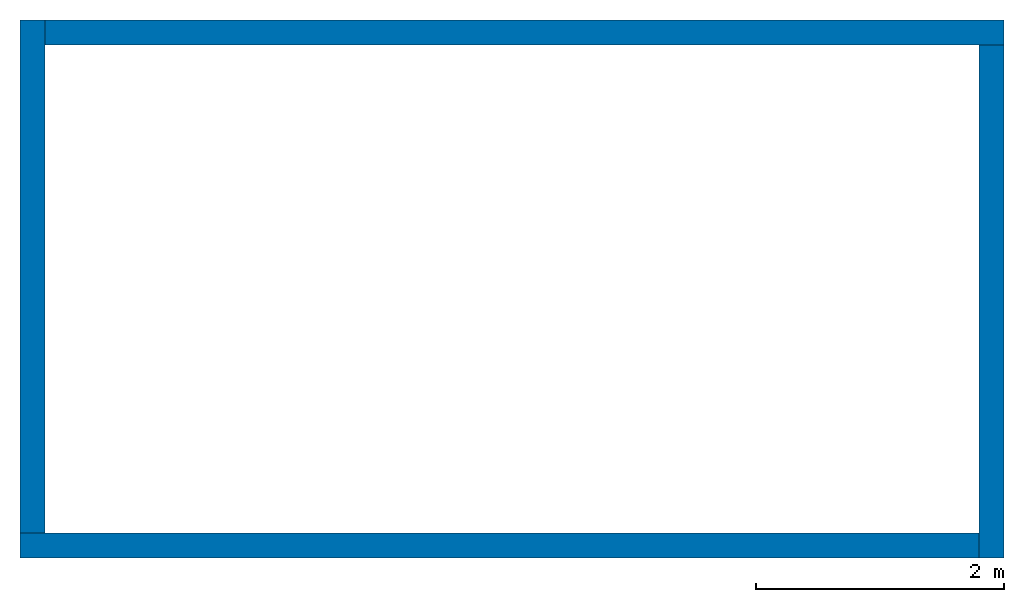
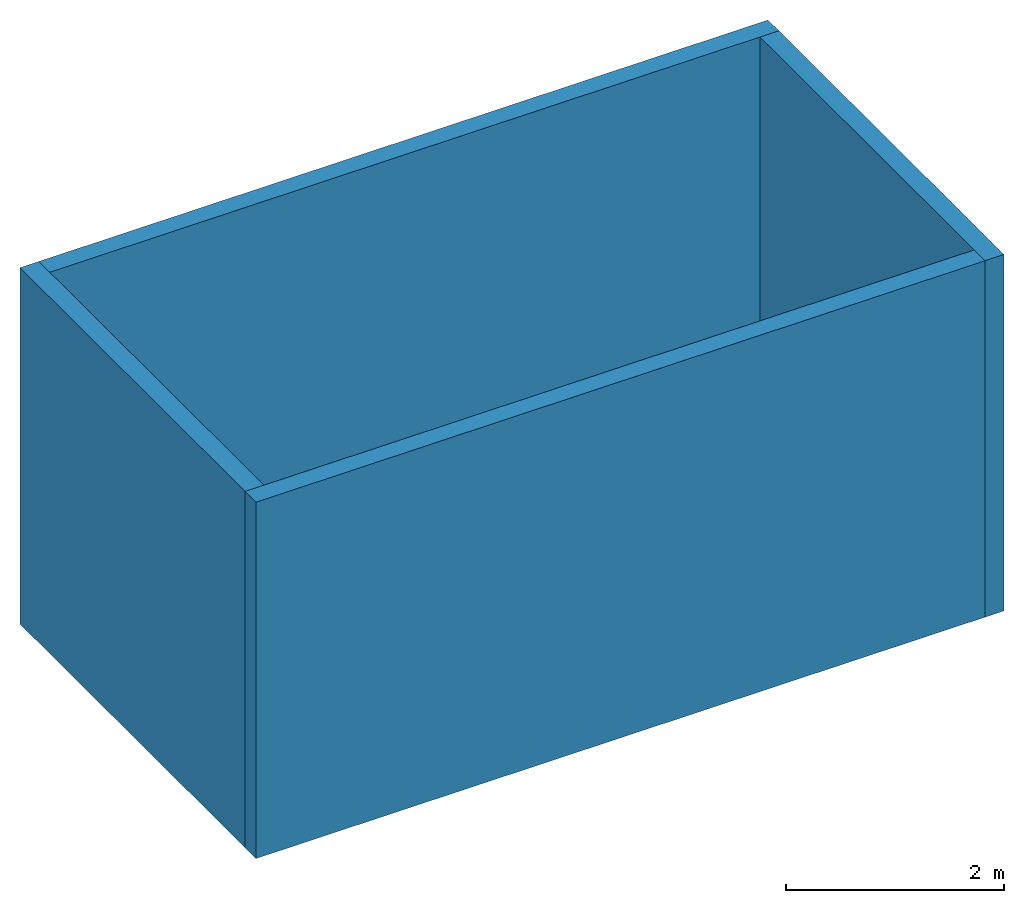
# One storey: 4 walls.
"""IFC2X3 building model written with IfcOpenShell, lengths in millimetres."""

import ifcopenshell
import ifcopenshell.guid

model = None  # the IFC model being written
_history = None  # IfcOwnerHistory: only IFC2X3 demands one
_inside = {}  # id of a spatial element -> (the spatial element, [elements in it])
_under = {}  # id of a project, library or spatial element -> (it, [spatial elements below it])
_declared = {}  # id of a project -> (the project, [libraries it declares])
_typed = {}  # id of a type object -> (the type object, [elements of that type])
_made_of = {}  # id of a material, layer set ... -> (it, [elements and type objects made of it])


def new_model(schema):
    """Start an empty IFC model of exactly this schema.

    Asked for "IFC4X3", IfcOpenShell would pick the latest addendum, in which some entities
    have other attributes; the version numbers below select the first issue.
    IFC2X3 requires an IfcOwnerHistory on every rooted entity: one is made here for all.
    """
    global model, _history
    if schema == "IFC4X3":
        model = ifcopenshell.file(schema_version=(4, 3, 0, 0))
    else:
        model = ifcopenshell.file(schema=schema)
    _inside.clear()
    _under.clear()
    _declared.clear()
    _typed.clear()
    _made_of.clear()
    _history = None
    if model.schema == "IFC2X3":
        org = make("IfcOrganization", Name="unknown")
        user = make(
            "IfcPersonAndOrganization",
            ThePerson=make("IfcPerson", FamilyName="unknown"),
            TheOrganization=org,
        )
        app = make(
            "IfcApplication",
            ApplicationDeveloper=org,
            Version="unknown",
            ApplicationFullName="unknown",
            ApplicationIdentifier="unknown",
        )
        _history = make(
            "IfcOwnerHistory",
            OwningUser=user,
            OwningApplication=app,
            ChangeAction="ADDED",
            CreationDate=0,
        )
    return model


def make(cls, **values):
    """One entity of the class cls with the attributes given. An attribute that is None is left unset."""
    return model.create_entity(
        cls, **{name: value for name, value in values.items() if value is not None}
    )


def entity(cls, *values):
    """Any entity or typed value of the class cls, its attributes in the order of the schema. None: left unset."""
    e = model.create_entity(cls)
    for i, value in enumerate(values):
        if value is not None:
            e[i] = value
    return e


def rooted(cls, **values):
    """An entity with a GlobalId (a new one), such as an element, a storey or a relation."""
    return make(cls, GlobalId=ifcopenshell.guid.new(), OwnerHistory=_history, **values)


def si_unit(unit_type, name, prefix=None):
    """IfcSIUnit, for example si_unit("LENGTHUNIT", "METRE", prefix="MILLI")."""
    return make("IfcSIUnit", UnitType=unit_type, Prefix=prefix, Name=name)


def converted_unit(unit_type, name, factor, base, dimensions=None, offset=None):
    """IfcConversionBasedUnit, such as the inch: factor (a typed value) times the base unit."""
    return make(
        "IfcConversionBasedUnit"
        if offset is None
        else "IfcConversionBasedUnitWithOffset",
        ConversionOffset=offset,
        Dimensions=None
        if dimensions is None
        else entity("IfcDimensionalExponents", *dimensions),
        UnitType=unit_type,
        Name=name,
        ConversionFactor=make(
            "IfcMeasureWithUnit", ValueComponent=factor, UnitComponent=base
        ),
    )


def derived_unit(unit_type, elements):
    """IfcDerivedUnit: a product of units, each with its exponent."""
    return make(
        "IfcDerivedUnit",
        Elements=[
            make("IfcDerivedUnitElement", Unit=unit, Exponent=power)
            for unit, power in elements
        ],
        UnitType=unit_type,
    )


def assignment(units):
    """IfcUnitAssignment: the units of a project."""
    return None if units is None else make("IfcUnitAssignment", Units=units)


def point(xyz):
    """IfcCartesianPoint."""
    return None if xyz is None else make("IfcCartesianPoint", Coordinates=xyz)


def direction(xyz):
    """IfcDirection."""
    return None if xyz is None else make("IfcDirection", DirectionRatios=xyz)


def frame(location, z_axis=None, x_axis=None):
    """IfcAxis2Placement3D, a coordinate frame: its origin and axes. An axis left out is left unset."""
    return make(
        "IfcAxis2Placement3D",
        Location=point(location),
        Axis=direction(z_axis),
        RefDirection=direction(x_axis),
    )


def frame_2d(location, x_axis=None):
    """IfcAxis2Placement2D, a coordinate frame in the plane: its origin and x axis."""
    return make(
        "IfcAxis2Placement2D", Location=point(location), RefDirection=direction(x_axis)
    )


def origin():
    """The frame at (0, 0, 0) with its axes left unset."""
    return frame((0.0, 0.0, 0.0))


def place(relative_to, where):
    """IfcLocalPlacement: puts the frame where relative to a parent placement (None: the world)."""
    return make(
        "IfcLocalPlacement", PlacementRelTo=relative_to, RelativePlacement=where
    )


def context(
    kind, dimensions, precision=None, world=None, true_north=None, identifier=None
):
    """IfcGeometricRepresentationContext, for example the 3D "Model" context."""
    return make(
        "IfcGeometricRepresentationContext",
        ContextIdentifier=identifier,
        ContextType=kind,
        CoordinateSpaceDimension=dimensions,
        Precision=precision,
        WorldCoordinateSystem=world,
        TrueNorth=true_north,
    )


def subcontext(parent, identifier, kind, view, scale=None):
    """IfcGeometricRepresentationSubContext, for example "Body" below "Model"."""
    return make(
        "IfcGeometricRepresentationSubContext",
        ContextIdentifier=identifier,
        ContextType=kind,
        ParentContext=parent,
        TargetScale=scale,
        TargetView=view,
    )


def project(units=None, contexts=None):
    """IfcProject with its units and contexts."""
    return rooted(
        "IfcProject",
        Name="project",
        RepresentationContexts=contexts,
        UnitsInContext=assignment(units),
    )


def spatial(cls, under=None, at=None, **own):
    """A site, building, storey or space (cls), placed at a placement, below another one or the project."""
    s = rooted(cls, ObjectPlacement=at, **own)
    if under is not None:
        _under.setdefault(under.id(), (under, []))[1].append(s)
    return s


def profile(cls, at=None, kind="AREA", **sizes):
    """A parametric profile (cls). Its sizes go by their IFC names, for example OverallWidth=200.0."""
    return make(cls, ProfileType=kind, Position=at, **sizes)


def rectangle(**sizes):
    """IfcRectangleProfileDef."""
    return profile("IfcRectangleProfileDef", **sizes)


def extrude(swept, where, along, depth):
    """IfcExtrudedAreaSolid: the profile swept, set in the frame where, extruded along a direction by depth."""
    return make(
        "IfcExtrudedAreaSolid",
        SweptArea=swept,
        Position=where,
        ExtrudedDirection=direction(along),
        Depth=depth,
    )


def shape(context_of_items, identifier, shape_type, items):
    """IfcShapeRepresentation: the items that make up one representation, for example the "Body"."""
    return make(
        "IfcShapeRepresentation",
        ContextOfItems=context_of_items,
        RepresentationIdentifier=identifier,
        RepresentationType=shape_type,
        Items=items,
    )


def material(Name=None, Category=None):
    """IfcMaterial."""
    return make("IfcMaterial", Name=Name, Category=Category)


def layer(
    of_material, thickness, ventilated=None, Name=None, Category=None, Priority=None
):
    """IfcMaterialLayer: one layer of a wall or slab, of a material (None: an air gap)."""
    return make(
        "IfcMaterialLayer",
        Material=of_material,
        LayerThickness=thickness,
        IsVentilated=ventilated,
        Name=Name,
        Category=Category,
        Priority=Priority,
    )


def layer_set(layers, Name=None):
    """IfcMaterialLayerSet."""
    return make("IfcMaterialLayerSet", MaterialLayers=layers, LayerSetName=Name)


def layer_usage(for_layer_set, set_direction, sense, offset, extent=None):
    """IfcMaterialLayerSetUsage: how a layer set lies in its element."""
    return make(
        "IfcMaterialLayerSetUsage",
        ForLayerSet=for_layer_set,
        LayerSetDirection=set_direction,
        DirectionSense=sense,
        OffsetFromReferenceLine=offset,
        ReferenceExtent=extent,
    )


def made_of(thing, what):
    """Note that an element or type object is made of a material, layer set ...; save() writes the relation."""
    if what is not None:
        _made_of.setdefault(what.id(), (what, []))[1].append(thing)
    return thing


def type_object(cls, material=None, **own):
    """A type object (cls), such as IfcWallType, which elements share."""
    return made_of(rooted(cls, **own), material)


def element(
    cls,
    number,
    at=None,
    inside=None,
    cuts=None,
    type_object=None,
    material=None,
    context=None,
    identifier="Body",
    shape_type=None,
    held_by="IfcProductDefinitionShape",
    body=None,
    shapes=None,
    **own,
):
    """One element of the class cls, such as IfcWall. Its Tag is "e" and its number.

    at: its placement. inside: the storey or other place that contains it. cuts: it is an
    opening in that element (IfcRelVoidsElement). A single representation is given by context,
    identifier, shape_type and body (its items); several are given by shapes. held_by: the class
    of the entity that holds the representations. save() writes the other relations.
    """
    e = rooted(cls, Tag="e%d" % number, ObjectPlacement=at, **own)
    if body is not None:
        shapes = [shape(context, identifier, shape_type, body)]
    if shapes is not None:
        e.Representation = make(held_by, Representations=shapes)
    if inside is not None:
        _inside.setdefault(inside.id(), (inside, []))[1].append(e)
    if cuts is not None:
        rooted(
            "IfcRelVoidsElement", RelatingBuildingElement=cuts, RelatedOpeningElement=e
        )
    if type_object is not None:
        _typed.setdefault(type_object.id(), (type_object, []))[1].append(e)
    return made_of(e, material)


def aggregate(whole, parts):
    """IfcRelAggregates: a whole, such as a stair, and the parts it consists of."""
    return rooted("IfcRelAggregates", RelatingObject=whole, RelatedObjects=parts)


def save(model, path):
    """Write the relations noted so far, then the file.

    IfcRelAggregates (storeys below a building ...), IfcRelContainedInSpatialStructure (elements
    in a storey), IfcRelDefinesByType, IfcRelAssociatesMaterial and IfcRelDeclares: one each for
    every whole, place, type object, material and project.
    """
    for whole, parts in _under.values():
        aggregate(whole, parts)
    for where, things in _inside.values():
        rooted(
            "IfcRelContainedInSpatialStructure",
            RelatedElements=things,
            RelatingStructure=where,
        )
    for kind, things in _typed.values():
        rooted("IfcRelDefinesByType", RelatedObjects=things, RelatingType=kind)
    for what, things in _made_of.values():
        rooted("IfcRelAssociatesMaterial", RelatedObjects=things, RelatingMaterial=what)
    for by, libraries in _declared.values():
        rooted("IfcRelDeclares", RelatingContext=by, RelatedDefinitions=libraries)
    model.write(path)


model = new_model("IFC2X3")

# Units and contexts
model_context = context("Model", 3, precision=0.01, world=origin(), true_north=direction((6.12303176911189e-17, 1.0)))
body_context = subcontext(model_context, "Body", "Model", "MODEL_VIEW")
ifc_project = project(units=[si_unit("LENGTHUNIT", "METRE", prefix="MILLI"), si_unit("AREAUNIT", "SQUARE_METRE"), si_unit("VOLUMEUNIT", "CUBIC_METRE"), converted_unit("PLANEANGLEUNIT", "DEGREE", entity("IfcRatioMeasure", 0.0174532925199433), si_unit("PLANEANGLEUNIT", "RADIAN"), dimensions=[0, 0, 0, 0, 0, 0, 0]), si_unit("MASSUNIT", "GRAM", prefix="KILO"), si_unit("TIMEUNIT", "SECOND"), si_unit("FREQUENCYUNIT", "HERTZ"), si_unit("THERMODYNAMICTEMPERATUREUNIT", "KELVIN"), derived_unit("THERMALTRANSMITTANCEUNIT", [(si_unit("MASSUNIT", "GRAM", prefix="KILO"), 1), (si_unit("THERMODYNAMICTEMPERATUREUNIT", "KELVIN"), -1), (si_unit("TIMEUNIT", "SECOND"), -3)]), derived_unit("VOLUMETRICFLOWRATEUNIT", [(si_unit("LENGTHUNIT", "METRE"), 3), (si_unit("TIMEUNIT", "SECOND"), -1)]), si_unit("ELECTRICCURRENTUNIT", "AMPERE"), si_unit("ELECTRICVOLTAGEUNIT", "VOLT"), si_unit("POWERUNIT", "WATT")], contexts=[model_context])

# Site, building, storey
site_placement = place(None, origin())
site = spatial("IfcSite", under=ifc_project, at=site_placement, Name="Default", CompositionType="ELEMENT")
building_placement = place(site_placement, origin())
building = spatial("IfcBuilding", under=site, at=building_placement, CompositionType="ELEMENT")
storey_placement = place(building_placement, origin())
storey = spatial("IfcBuildingStorey", under=building, at=storey_placement, Name="Level 1", CompositionType="ELEMENT", Elevation=0.0)

# Walls
ifc_material = material(Name="Default Wall")
ifc_layer = layer(ifc_material, 200.0)
ifc_layer_set = layer_set([ifc_layer], Name="Basic Wall:Wall 1")
ifc_layer_usage_1 = layer_usage(ifc_layer_set, "AXIS2", "NEGATIVE", 100.0)
wall_type = type_object("IfcWallType", Name="Basic Wall:Wall 1", PredefinedType="STANDARD", material=ifc_layer_set)
wall_1_placement = place(storey_placement, frame((-15057.1773220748, 599.215922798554, 0.0)))
element("IfcWallStandardCase", 1, at=wall_1_placement, inside=storey, type_object=wall_type, material=ifc_layer_usage_1, Name="Basic Wall:Wall 1:2277", ObjectType="Basic Wall:Wall 1:1492", context=body_context, shape_type="SweptSolid", body=[
    extrude(rectangle(XDim=7740.0, YDim=200.0, at=frame_2d((3870.0, 0.0), x_axis=(-1.0, 0.0))), origin(), (0.0, 0.0, 1.0), 4000.0),
])
ifc_layer_usage_2 = layer_usage(ifc_layer_set, "AXIS2", "NEGATIVE", 100.0)
wall_2_placement = place(storey_placement, frame((-14957.1773220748, 4839.21592279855, 0.0), z_axis=(0.0, 0.0, 1.0), x_axis=(0.0, -1.0, 0.0)))
element("IfcWallStandardCase", 2, at=wall_2_placement, inside=storey, type_object=wall_type, material=ifc_layer_usage_2, Name="Basic Wall:Wall 1:2278", ObjectType="Basic Wall:Wall 1:1492", context=body_context, shape_type="SweptSolid", body=[
    extrude(rectangle(XDim=4140.0, YDim=199.999999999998, at=frame_2d((2070.0, 0.0), x_axis=(-1.0, 0.0))), origin(), (0.0, 0.0, 1.0), 4000.0),
])
ifc_layer_usage_3 = layer_usage(ifc_layer_set, "AXIS2", "NEGATIVE", 100.0)
wall_3_placement = place(storey_placement, frame((-7117.1773220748, 4739.21592279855, 0.0), z_axis=(0.0, 0.0, 1.0), x_axis=(-1.0, 0.0, 0.0)))
element("IfcWallStandardCase", 3, at=wall_3_placement, inside=storey, type_object=wall_type, material=ifc_layer_usage_3, Name="Basic Wall:Wall 1:2279", ObjectType="Basic Wall:Wall 1:1492", context=body_context, shape_type="SweptSolid", body=[
    extrude(rectangle(XDim=7740.0, YDim=200.0, at=frame_2d((3870.0, 0.0), x_axis=(-1.0, 0.0))), origin(), (0.0, 0.0, 1.0), 4000.0),
])
ifc_layer_usage_4 = layer_usage(ifc_layer_set, "AXIS2", "NEGATIVE", 100.0)
wall_4_placement = place(storey_placement, frame((-7217.1773220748, 499.215922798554, 0.0), z_axis=(0.0, 0.0, 1.0), x_axis=(0.0, 1.0, 0.0)))
element("IfcWallStandardCase", 4, at=wall_4_placement, inside=storey, type_object=wall_type, material=ifc_layer_usage_4, Name="Basic Wall:Wall 1:2280", ObjectType="Basic Wall:Wall 1:1492", context=body_context, shape_type="SweptSolid", body=[
    extrude(rectangle(XDim=4140.0, YDim=200.0, at=frame_2d((2070.0, 0.0), x_axis=(-1.0, 0.0))), origin(), (0.0, 0.0, 1.0), 4000.0),
])

save(model, "model.ifc")
